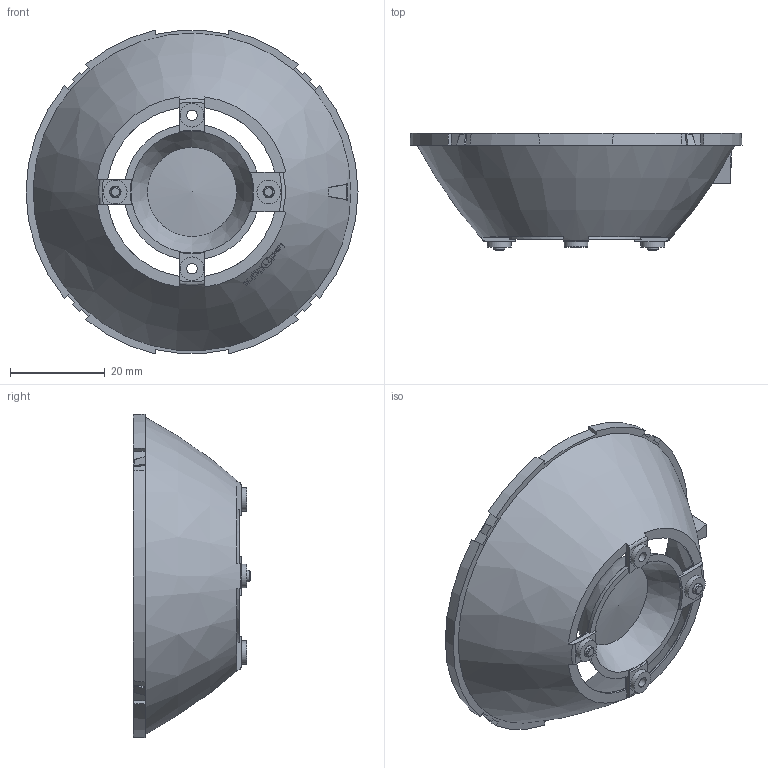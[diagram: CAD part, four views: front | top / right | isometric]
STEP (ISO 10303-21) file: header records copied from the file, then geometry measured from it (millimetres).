
FILE_DESCRIPTION(('STEP AP203'),'1');
FILE_NAME('Z:/MOULES/2901 REFLECTEURS LL/3D tt version/3D 16 versions/Ø70_070711/Communication client/LLR05N11AC0/LLR05N11AC0.step','2012-11-28T15:51:07',(' '),(' '),'Spatial InterOp 3D',' ',' ');
FILE_SCHEMA(('CONFIG_CONTROL_DESIGN'));
Length unit declared in the file: millimetre
Products named in the file (1): 1
Bounding box: 69.91 x 24.72 x 68.22 mm (x, y, z)
Volume: 13515.4 mm3; surface area: 12052.9 mm2
Topology: 1 solids, 3 shells, 323 faces, 835 edges, 536 vertices
Faces by surface type: plane 161, cylinder 88, cone 28, bspline 24, extrusion 11, revolution 7, torus 4
Full cylindrical faces by diameter (mm): 2.2 x2, 4.975 x4
Entity records: 13003 total; most frequent: CARTESIAN_POINT 5787, ORIENTED_EDGE 1618, DIRECTION 1214, EDGE_CURVE 809, VERTEX_POINT 530, AXIS2_PLACEMENT_3D 415, VECTOR 377, EDGE_LOOP 370
